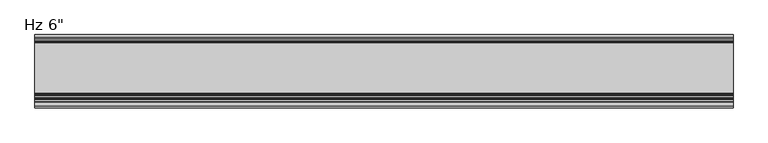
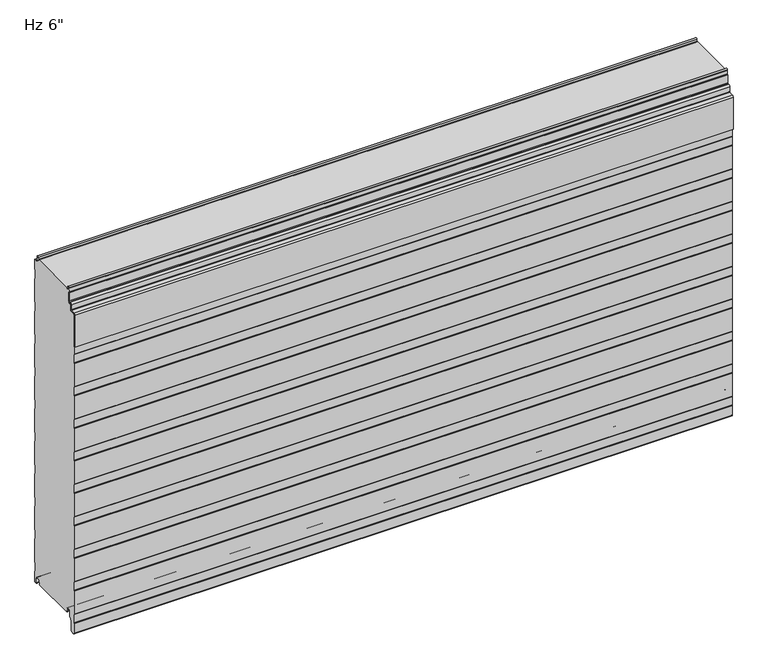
"""IFC4 building model written with IfcOpenShell, lengths in millimetres: plate geometry."""

from ifc_helpers import new_model, si_unit, point, frame, frame_2d, origin, place, context, project, spatial, polyline, circle_curve, trimmed, segment, composite_curve, outline, extrude, source, transform, mapped, element, save
from ifc_brep_helpers import plane_surface, cylinder_surface, revolved_surface, advanced_brep


def plate_9123f76a(model_context):
    return source(origin(), model_context, "Body", "SolidModel", [
        advanced_brep(
        [(730.0, -131.3008679, 735.9534183), (730.0, -131.3008679, 754.6986183), (730.0, -132.8248679, 754.6986183), (730.0, -132.8248679, 735.9534183), (730.0, -134.3488679, 734.4294183), (730.0, -137.4476679, 734.4294183), (730.0, -140.9020679, 730.9750183), (730.0, -140.9020679, 719.762461), (730.0, -141.5976552, 719.0033606), (730.0, -151.1416507, 717.808533), (730.0, -153.924, 714.7721316), (730.0, -153.9360323, 639.2048183), (730.0, -152.4, 639.2048183), (730.0, -152.4, 714.7721316), (730.0, -151.0088254, 716.2903323), (730.0, -141.4648299, 717.4851599), (730.0, -139.3780679, 719.762461), (730.0, -139.3780679, 730.9750183), (730.0, -137.4476679, 732.9054183), (730.0, -134.3488679, 732.9054183), (-730.0, -131.3008679, 735.9534183), (-730.0, -134.3488679, 732.9054183), (-730.0, -137.4476679, 732.9054183), (-730.0, -139.3780679, 730.9750183), (-730.0, -139.3780679, 719.762461), (-730.0, -141.4648299, 717.4851599), (-730.0, -151.0088254, 716.2903323), (-730.0, -152.4, 714.7721316), (-730.0, -152.4, 639.2048183), (-730.0, -153.9360323, 639.2048183), (-730.0, -153.9360323, 714.7721316), (-730.0, -151.1416507, 717.808533), (-730.0, -141.5976552, 719.0033606), (-730.0, -140.9020679, 719.762461), (-730.0, -140.9020679, 730.9750183), (-730.0, -137.4476679, 734.4294183), (-730.0, -134.3488679, 734.4294183), (-730.0, -132.8248679, 735.9534183), (-730.0, -132.8248679, 754.6986183), (-730.0, -131.3008679, 754.6986183)],
        [
            (0, 1),
            (1, 2),
            (2, 3),
            (3, 4, circle_curve(frame((730.0, -134.3488679, 735.9534183), z_axis=(-1.0, 0.0, 0.0), x_axis=(0.0, 1.0, 0.0)), 1.524)),
            (4, 5),
            (5, 6, circle_curve(frame((730.0, -137.4476679, 730.9750183), z_axis=(1.0, 0.0, 0.0), x_axis=(0.0, 1.0, 0.0)), 3.4544)),
            (6, 7),
            (7, 8, circle_curve(frame((730.0, -141.6640679, 719.762461), z_axis=(-1.0, 0.0, 0.0), x_axis=(0.0, 1.0, 0.0)), 0.762)),
            (8, 9),
            (9, 10, circle_curve(frame((730.0, -150.876, 714.7721316), z_axis=(1.0, 0.0, 0.0), x_axis=(0.0, 1.0, 0.0)), 3.048)),
            (10, 11),
            (11, 12),
            (12, 13),
            (13, 14, circle_curve(frame((730.0, -150.876, 714.7721316), z_axis=(-1.0, 0.0, 0.0), x_axis=(0.0, 1.0, 0.0)), 1.524)),
            (14, 15),
            (15, 16, circle_curve(frame((730.0, -141.6640679, 719.762461), z_axis=(1.0, 0.0, 0.0), x_axis=(0.0, 1.0, 0.0)), 2.286)),
            (16, 17),
            (17, 18, circle_curve(frame((730.0, -137.4476679, 730.9750183), z_axis=(-1.0, 0.0, 0.0), x_axis=(0.0, 1.0, 0.0)), 1.9304)),
            (18, 19),
            (19, 0, circle_curve(frame((730.0, -134.3488679, 735.9534183), z_axis=(1.0, 0.0, 0.0), x_axis=(0.0, 1.0, 0.0)), 3.048)),
            (20, 21, circle_curve(frame((-730.0, -134.3488679, 735.9534183), z_axis=(-1.0, 0.0, 0.0), x_axis=(0.0, 1.0, 0.0)), 3.048)),
            (21, 22),
            (22, 23, circle_curve(frame((-730.0, -137.4476679, 730.9750183), z_axis=(1.0, 0.0, 0.0), x_axis=(0.0, 1.0, 0.0)), 1.9304)),
            (23, 24),
            (24, 25, circle_curve(frame((-730.0, -141.6640679, 719.762461), z_axis=(-1.0, 0.0, 0.0), x_axis=(0.0, 1.0, 0.0)), 2.286)),
            (25, 26),
            (26, 27, circle_curve(frame((-730.0, -150.876, 714.7721316), z_axis=(1.0, 0.0, 0.0), x_axis=(0.0, 1.0, 0.0)), 1.524)),
            (27, 28),
            (28, 29),
            (29, 30),
            (30, 31, circle_curve(frame((-730.0, -150.876, 714.7721316), z_axis=(-1.0, 0.0, 0.0), x_axis=(0.0, 1.0, 0.0)), 3.048)),
            (31, 32),
            (32, 33, circle_curve(frame((-730.0, -141.6640679, 719.762461), z_axis=(1.0, 0.0, 0.0), x_axis=(0.0, 1.0, 0.0)), 0.762)),
            (33, 34),
            (34, 35, circle_curve(frame((-730.0, -137.4476679, 730.9750183), z_axis=(-1.0, 0.0, 0.0), x_axis=(0.0, 1.0, 0.0)), 3.4544)),
            (35, 36),
            (36, 37, circle_curve(frame((-730.0, -134.3488679, 735.9534183), z_axis=(1.0, 0.0, 0.0), x_axis=(0.0, 1.0, 0.0)), 1.524)),
            (37, 38),
            (38, 39),
            (39, 20),
            (2, 38),
            (37, 3),
            (15, 25),
            (24, 16),
            (7, 33),
            (32, 8),
            (5, 35),
            (34, 6),
            (1, 39),
            (36, 4),
            (9, 31),
            (30, 10),
            (13, 27),
            (26, 14),
            (0, 20),
            (12, 28),
            (29, 11),
            (23, 17),
            (18, 22),
            (21, 19),
        ],
        [
            plane_surface(frame((730.0, -152.4, 754.6986183), z_axis=(1.0, 0.0, 0.0), x_axis=(0.0, 0.0, -1.0))),
            plane_surface(frame((-730.0, -152.4, 754.6986183), z_axis=(-1.0, 0.0, 0.0), x_axis=(0.0, 0.0, -1.0))),
            plane_surface(frame((730.0, -132.8248679, 735.9534183), z_axis=(0.0, -1.0, 0.0), x_axis=(-1.0, 0.0, 0.0))),
            cylinder_surface(frame((730.0, -141.6640679, 719.762461), z_axis=(1.0, 0.0, 0.0), x_axis=(0.0, 1.0, 0.0)), 2.286),
            revolved_surface(polyline([(-730.0, -140.9020679, 719.762461), (730.0, -140.9020679, 719.762461)]), (730.0, -141.6640679, 719.762461), (-1.0, 0.0, 0.0)),
            cylinder_surface(frame((730.0, -137.4476679, 730.9750183), z_axis=(1.0, 0.0, 0.0), x_axis=(0.0, 1.0, 0.0)), 3.4544),
            plane_surface(frame((730.0, -132.8248679, 754.6986183), z_axis=(0.0, 0.0, 1.0), x_axis=(-1.0, 0.0, 0.0))),
            revolved_surface(polyline([(-730.0, -132.8248679, 735.9534183), (730.0, -132.8248679, 735.9534183)]), (730.0, -134.3488679, 735.9534183), (-1.0, 0.0, 0.0)),
            cylinder_surface(frame((730.0, -150.876, 714.7721316), z_axis=(1.0, 0.0, 0.0), x_axis=(0.0, 1.0, 0.0)), 3.048),
            revolved_surface(polyline([(-730.0, -149.352, 714.7721316), (730.0, -149.352, 714.7721316)]), (730.0, -150.876, 714.7721316), (-1.0, 0.0, 0.0)),
            plane_surface(frame((730.0, -131.3008679, 754.6986183), z_axis=(0.0, 1.0, 0.0), x_axis=(-1.0, 0.0, 0.0))),
            plane_surface(frame((730.0, -141.4648299, 717.4851599), z_axis=(0.0, 0.12422187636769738, -0.9922544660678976), x_axis=(-1.0, 0.0, 0.0))),
            plane_surface(frame((730.0, -152.4, 714.7721316), z_axis=(0.0, 1.0, 0.0), x_axis=(-1.0, 0.0, 0.0))),
            plane_surface(frame((730.0, -151.1416507, 717.808533), z_axis=(0.0, -0.12422187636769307, 0.9922544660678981), x_axis=(-1.0, 0.0, 0.0))),
            plane_surface(frame((730.0, -137.4476679, 734.4294183), z_axis=(0.0, 0.0, 1.0), x_axis=(-1.0, 0.0, 0.0))),
            plane_surface(frame((730.0, -153.9360323, 639.2048183), z_axis=(0.0, -1.0, 0.0), x_axis=(-1.0, 0.0, 0.0))),
            plane_surface(frame((730.0, -152.4, 639.2048183), z_axis=(0.0, 0.0, -1.0), x_axis=(-1.0, 0.0, 0.0))),
            plane_surface(frame((730.0, -139.3780679, 730.9750183), z_axis=(0.0, 1.0, 0.0), x_axis=(-1.0, 0.0, 0.0))),
            plane_surface(frame((730.0, -134.3488679, 732.9054183), z_axis=(0.0, 0.0, -1.0), x_axis=(-1.0, 0.0, 0.0))),
            plane_surface(frame((730.0, -140.9020679, 719.762461), z_axis=(0.0, -1.0, 0.0), x_axis=(-1.0, 0.0, 0.0))),
            revolved_surface(polyline([(-730.0, -135.5172679, 730.9750183), (730.0, -135.5172679, 730.9750183)]), (730.0, -137.4476679, 730.9750183), (-1.0, 0.0, 0.0)),
            cylinder_surface(frame((730.0, -134.3488679, 735.9534183), z_axis=(1.0, 0.0, 0.0), x_axis=(0.0, 1.0, 0.0)), 3.048),
        ],
        [
            (0, [[1, 2, 3, 4, 5, 6, 7, 8, 9, 10, 11, 12, 13, 14, 15, 16, 17, 18, 19, 20]]),
            (1, [[21, 22, 23, 24, 25, 26, 27, 28, 29, 30, 31, 32, 33, 34, 35, 36, 37, 38, 39, 40]]),
            (2, [[41, -38, 42, -3]]),
            (3, [[43, -25, 44, -16]]),
            (4, [[45, -33, 46, -8]]),
            (5, [[47, -35, 48, -6]]),
            (6, [[49, -39, -41, -2]]),
            (7, [[-42, -37, 50, -4]]),
            (8, [[51, -31, 52, -10]]),
            (9, [[53, -27, 54, -14]]),
            (10, [[55, -40, -49, -1]]),
            (11, [[-54, -26, -43, -15]]),
            (12, [[56, -28, -53, -13]]),
            (13, [[-46, -32, -51, -9]]),
            (14, [[-50, -36, -47, -5]]),
            (15, [[-52, -30, 57, -11]]),
            (16, [[-57, -29, -56, -12]]),
            (17, [[-44, -24, 58, -17]]),
            (18, [[59, -22, 60, -19]]),
            (19, [[-48, -34, -45, -7]]),
            (20, [[-58, -23, -59, -18]]),
            (21, [[-60, -21, -55, -20]]),
        ],
    ),
        extrude(outline(composite_curve([segment(trimmed(circle_curve(frame_2d((-124.106538, 2.2313092)), 1.1999976), [point((-124.0760161, 1.0316999))], [point((-122.9065413, 2.2328239))], True, "CARTESIAN"), True, "CONTINUOUS"), segment(polyline([(-122.9065413, 2.2328239), (-122.9065413, 5.9912173), (-124.3050202, 5.9912173), (-124.3050202, 8.6903283)]), True, "CONTINUOUS"), segment(trimmed(circle_curve(frame_2d((-127.6550155, 8.6903283)), 3.3499953), [point((-124.3050202, 8.6903283))], [point((-127.6550155, 12.0403236))], True, "CARTESIAN"), True, "CONTINUOUS"), segment(polyline([(-127.6550155, 12.0403236), (-132.0550067, 12.0403236)]), True, "CONTINUOUS"), segment(trimmed(circle_curve(frame_2d((-132.0550067, 8.6903283)), 3.3499953), [point((-132.0550067, 12.0403236))], [point((-135.405002, 8.6903283))], True, "CARTESIAN"), True, "CONTINUOUS"), segment(polyline([(-135.405002, 8.6903283), (-135.405002, -3.1205608)]), True, "CONTINUOUS"), segment(trimmed(circle_curve(frame_2d((-137.1049966, -3.1205608)), 1.6999946), [point((-135.405002, -3.1205608))], [point((-135.9029189, -4.3226385))], False, "CARTESIAN"), True, "CONTINUOUS"), segment(polyline([(-135.9029189, -4.3226385), (-141.40499, -9.8247096), (-141.40499, -31.9198392)]), True, "CONTINUOUS"), segment(trimmed(circle_curve(frame_2d((-144.1049826, -31.9198392)), 2.6999926), [point((-141.40499, -31.9198392))], [point((-143.623592, -34.5765709))], False, "CARTESIAN"), True, "CONTINUOUS"), segment(polyline([(-143.623592, -34.5765709), (-148.6054129, -35.0125699)]), True, "CONTINUOUS"), segment(trimmed(circle_curve(frame_2d((-148.8294985, -32.4521176)), 2.5702393), [point((-148.6054129, -35.0125699))], [point((-151.3997378, -32.4521176))], False, "CARTESIAN"), True, "CONTINUOUS"), segment(polyline([(-151.3997378, -32.4521176), (-151.3997378, -10.4790962), (-150.1997693, -9.2791277), (-150.1997693, 10.4402849), (-151.4, 11.6405156), (-151.4, 65.7206473), (-150.1997693, 66.920878), (-150.1997693, 86.6402905), (-151.4, 87.8405213), (-151.4, 141.920653), (-150.1997693, 143.1208837), (-150.1997693, 162.8402962), (-151.4, 164.0405269), (-151.4, 218.1206587), (-150.1997693, 219.3208894), (-150.1997693, 239.0403019), (-151.4, 240.2405326), (-151.4, 294.3206644), (-150.1997693, 295.5208951), (-150.1997693, 315.2403076), (-151.4, 316.4405383), (-151.4, 370.5206701), (-150.1997693, 371.7209008), (-150.1997693, 391.4403133), (-151.4, 392.640544), (-151.4, 446.7206758), (-150.1997693, 447.9209065), (-150.1997693, 467.640319), (-151.4, 468.8405497), (-151.4, 522.9206815), (-150.1997693, 524.1209122), (-150.1997693, 543.8403247), (-151.4, 545.0405554), (-151.4, 599.1206872), (-150.1997693, 600.3209179), (-150.1997693, 620.0403304), (-151.4, 621.2405611), (-151.4, 675.3206929), (-150.1997693, 676.5209236), (-150.1997693, 696.2403361), (-151.4051411, 697.4457079), (-151.4051411, 713.5156233)]), True, "CONTINUOUS"), segment(trimmed(circle_curve(frame_2d((-149.4461194, 713.5156233)), 1.9590216), [point((-151.4051411, 713.5156233))], [point((-149.6178029, 715.4671075))], False, "CARTESIAN"), True, "CONTINUOUS"), segment(polyline([(-149.6178029, 715.4671075), (-141.1590902, 716.221161)]), True, "CONTINUOUS"), segment(trimmed(circle_curve(frame_2d((-141.4231732, 719.2396267)), 3.0299959), [point((-141.1590902, 716.221161))], [point((-138.3957873, 719.3653654))], True, "CARTESIAN"), True, "CONTINUOUS"), segment(polyline([(-138.3957873, 719.3653654), (-138.3957873, 729.4583308)]), True, "CONTINUOUS"), segment(trimmed(circle_curve(frame_2d((-137.4443786, 729.4583308)), 0.9514087), [point((-138.3957873, 729.4583308))], [point((-137.4443786, 730.4097394))], False, "CARTESIAN"), True, "CONTINUOUS"), segment(polyline([(-137.4443786, 730.4097394), (-134.3007233, 730.4097394)]), True, "CONTINUOUS"), segment(trimmed(circle_curve(frame_2d((-134.3007233, 734.4091924)), 3.9994529), [point((-134.3007233, 730.4097394))], [point((-130.3012703, 734.4091924))], True, "CARTESIAN"), True, "CONTINUOUS"), segment(polyline([(-130.3012703, 734.4091924), (-130.3012703, 755.5895515), (-132.2821181, 756.7334028), (-131.9268578, 765.706811)]), True, "CONTINUOUS"), segment(trimmed(circle_curve(frame_2d((-129.8266291, 765.6236622)), 2.1018739), [point((-131.9268578, 765.706811))], [point((-127.7262802, 765.7037148))], False, "CARTESIAN"), True, "CONTINUOUS"), segment(polyline([(-127.7262802, 765.7037148), (-127.4818653, 761.6977997)]), True, "CONTINUOUS"), segment(trimmed(circle_curve(frame_2d((-125.6434917, 761.8099653)), 1.8417922), [point((-127.4818653, 761.6977997))], [point((-125.6870527, 759.9686884))], True, "CARTESIAN"), True, "CONTINUOUS"), segment(polyline([(-125.6870527, 759.9686884), (-122.9025061, 759.9686884), (-122.9025061, 760.9686884), (-124.4900061, 760.9686884), (-123.4586945, 762.0), (-18.6184525, 762.0), (-17.5871409, 760.9686884), (-19.0015288, 760.9686884), (-19.0015288, 759.9686884), (-16.6743462, 759.9686884)]), True, "CONTINUOUS"), segment(trimmed(circle_curve(frame_2d((-16.6743462, 761.7186869)), 1.7499985), [point((-16.6743462, 759.9686884))], [point((-14.9256429, 761.6513685))], True, "CARTESIAN"), True, "CONTINUOUS"), segment(polyline([(-14.9256429, 761.6513685), (-14.7059822, 765.7921924)]), True, "CONTINUOUS"), segment(trimmed(circle_curve(frame_2d((-12.5552871, 765.6781032)), 2.153719), [point((-14.7059822, 765.7921924))], [point((-10.4046442, 765.7931719))], False, "CARTESIAN"), True, "CONTINUOUS"), segment(polyline([(-10.4046442, 765.7931719), (-9.9974365, 757.3016499)]), True, "CONTINUOUS"), segment(trimmed(circle_curve(frame_2d((-5.9867338, 757.4939817)), 4.0153117), [point((-9.9974365, 757.3016499))], [point((-6.0026007, 753.4787013))], True, "CARTESIAN"), True, "CONTINUOUS"), segment(polyline([(-6.0026007, 753.4787013), (-1.0, 753.4787013), (-1.0, 728.9790963), (-2.2002307, 727.5934634), (-2.2002307, 708.2182971), (-1.0, 706.8326641), (-1.0, 652.7792487), (-2.2002307, 651.3936158), (-2.2002307, 632.0184495), (-1.0, 630.6328165), (-1.0, 576.5794011), (-2.2002307, 575.1937682), (-2.2002307, 555.8186019), (-1.0, 554.4329689), (-1.0, 500.3795535), (-2.2002307, 498.9939206), (-2.2002307, 479.6187543), (-1.0, 478.2331213), (-1.0, 424.1797059), (-2.2002307, 422.794073), (-2.2002307, 403.4189067), (-1.0, 402.0332737), (-1.0, 347.9798583), (-2.2002307, 346.5942254), (-2.2002307, 327.2190591), (-1.0, 325.8334261), (-1.0, 271.7800107), (-2.2002307, 270.3943778), (-2.2002307, 251.0192115), (-1.0, 249.6335785), (-1.0, 195.5801631), (-2.2002307, 194.1945302), (-2.2002307, 174.8193639), (-1.0, 173.4337309), (-1.0, 119.3803155), (-2.2002307, 117.9946826), (-2.2002307, 98.6195163), (-1.0, 97.2338833), (-1.0, 43.1804679), (-2.2002307, 41.794835), (-2.2002307, 22.4196687), (-0.9999916, 21.034026), (-0.9999916, -3.4662506), (-5.2315389, -3.4662506)]), True, "CONTINUOUS"), segment(trimmed(circle_curve(frame_2d((-5.2315389, -1.6962564)), 1.7699942), [point((-5.2315389, -3.4662506))], [point((-7.0015331, -1.6962564))], False, "CARTESIAN"), True, "CONTINUOUS"), segment(polyline([(-7.0015331, -1.6962564), (-7.0015331, 8.7237222)]), True, "CONTINUOUS"), segment(trimmed(circle_curve(frame_2d((-10.301529, 8.7237222)), 3.2999959), [point((-7.0015331, 8.7237222))], [point((-10.301529, 12.023718))], True, "CARTESIAN"), True, "CONTINUOUS"), segment(polyline([(-10.301529, 12.023718), (-14.7015202, 12.023718)]), True, "CONTINUOUS"), segment(trimmed(circle_curve(frame_2d((-14.7015202, 8.7237223)), 3.2999957), [point((-14.7015202, 12.023718))], [point((-18.0015159, 8.7237223))], True, "CARTESIAN"), True, "CONTINUOUS"), segment(polyline([(-18.0015159, 8.7237223), (-18.0015159, 6.0315125), (-19.0015105, 6.0315125), (-19.0015105, 2.0313089)]), True, "CONTINUOUS"), segment(trimmed(circle_curve(frame_2d((-18.0015133, 2.0313089)), 0.9999972), [point((-19.0015105, 2.0313089))], [point((-18.0015192, 1.0313117))], True, "CARTESIAN"), True, "CONTINUOUS"), segment(polyline([(-18.0015192, 1.0313117), (-19.0328308, 0.0), (-123.0443162, 0.0), (-124.0760161, 1.0316999)]), True, "CONTINUOUS")], self_intersect=False)), frame((-730.0, 0.0, 0.0), z_axis=(1.0, 0.0, 0.0), x_axis=(0.0, 1.0, 0.0)), (0.0, 0.0, 1.0), 1460.0),
    ])


if __name__ == "__main__":
    model = new_model("IFC4")
    model_context = context("Model", 3, world=origin())
    ifc_project = project(units=[si_unit("LENGTHUNIT", "METRE", prefix="MILLI")], contexts=[model_context])
    site = spatial("IfcSite", under=ifc_project)
    building = spatial("IfcBuilding", under=site)
    placement = place(None, origin())
    plate_shape = plate_9123f76a(model_context)
    element("IfcPlate", 1, ObjectType="KIP-30-Karrier-KP-R19-CP-Hz-SL_SL : Hz 6\"", at=placement, inside=building, context=model_context, shape_type="MappedRepresentation", body=[
        mapped(plate_shape, transform((0.0, 0.0, 0.0), x_axis=(1.0, 0.0, 0.0), y_axis=(0.0, 1.0, 0.0), z_axis=(0.0, 0.0, 1.0))),
    ])
    save(model, "model.ifc")
